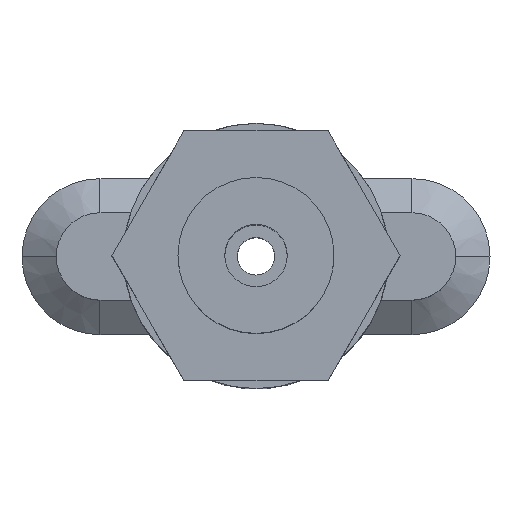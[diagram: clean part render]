
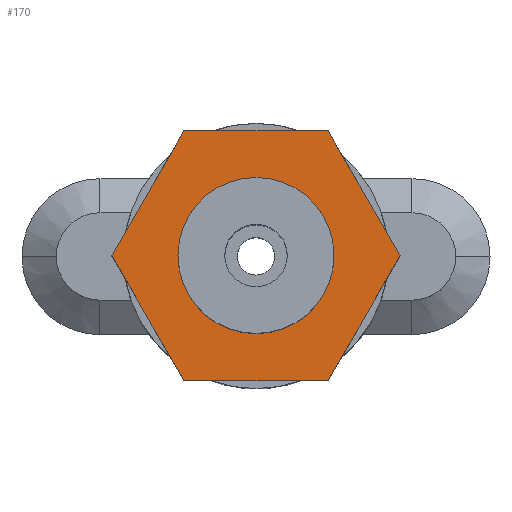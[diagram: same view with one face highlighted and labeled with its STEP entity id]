
A CAD part, top view. The second image highlights one B-rep face of the part: STEP entity #170.
In plain terms, the highlighted planar face has unit normal (0, 0, 1).
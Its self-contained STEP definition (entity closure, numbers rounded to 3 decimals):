
#170=ADVANCED_FACE('NONE',(#357,#358),#359,.T.);
#357=FACE_OUTER_BOUND('',#560,.T.);
#358=FACE_BOUND('',#561,.T.);
#359=PLANE('',#562);
#560=EDGE_LOOP('',(#980,#981,#982,#983,#984,#985));
#561=EDGE_LOOP('',(#986,#987));
#562=AXIS2_PLACEMENT_3D('',#988,#989,#990);
#980=ORIENTED_EDGE('',*,*,#1315,.T.);
#981=ORIENTED_EDGE('',*,*,#1316,.T.);
#982=ORIENTED_EDGE('',*,*,#1317,.T.);
#983=ORIENTED_EDGE('',*,*,#1318,.T.);
#984=ORIENTED_EDGE('',*,*,#1319,.T.);
#985=ORIENTED_EDGE('',*,*,#1320,.T.);
#986=ORIENTED_EDGE('',*,*,#1321,.T.);
#987=ORIENTED_EDGE('',*,*,#1322,.T.);
#988=CARTESIAN_POINT('',(2.5,0.0,0.0));
#989=DIRECTION('',(0.0,0.0,1.0));
#990=DIRECTION('',(1.0,-0.0,0.0));
#1315=EDGE_CURVE('NONE',#1585,#1586,#1587,.T.);
#1316=EDGE_CURVE('NONE',#1586,#1588,#1589,.T.);
#1317=EDGE_CURVE('NONE',#1588,#1590,#1591,.T.);
#1318=EDGE_CURVE('NONE',#1590,#1592,#1593,.T.);
#1319=EDGE_CURVE('NONE',#1592,#1594,#1595,.T.);
#1320=EDGE_CURVE('NONE',#1594,#1585,#1596,.T.);
#1321=EDGE_CURVE('NONE',#1597,#1598,#1599,.T.);
#1322=EDGE_CURVE('NONE',#1598,#1597,#1600,.T.);
#1585=VERTEX_POINT('NONE',#1957);
#1586=VERTEX_POINT('NONE',#1958);
#1587=LINE('',#1959,#1960);
#1588=VERTEX_POINT('NONE',#1961);
#1589=LINE('',#1962,#1963);
#1590=VERTEX_POINT('NONE',#1964);
#1591=LINE('',#1965,#1966);
#1592=VERTEX_POINT('NONE',#1967);
#1593=LINE('',#1968,#1969);
#1594=VERTEX_POINT('NONE',#1970);
#1595=LINE('',#1971,#1972);
#1596=LINE('',#1973,#1974);
#1597=VERTEX_POINT('NONE',#1975);
#1598=VERTEX_POINT('NONE',#1976);
#1599=CIRCLE('',#1977,2.5);
#1600=CIRCLE('',#1978,2.5);
#1957=CARTESIAN_POINT('',(2.309,4.0,0.0));
#1958=CARTESIAN_POINT('',(-2.309,4.0,0.0));
#1959=CARTESIAN_POINT('',(2.309,4.0,0.0));
#1960=VECTOR('',#2269,1000.0);
#1961=CARTESIAN_POINT('',(-4.619,0.,0.0));
#1962=CARTESIAN_POINT('',(-2.309,4.0,0.0));
#1963=VECTOR('',#2270,1000.0);
#1964=CARTESIAN_POINT('',(-2.309,-4.0,0.0));
#1965=CARTESIAN_POINT('',(-4.619,0.,0.0));
#1966=VECTOR('',#2271,1000.0);
#1967=CARTESIAN_POINT('',(2.309,-4.0,0.0));
#1968=CARTESIAN_POINT('',(-2.309,-4.0,0.0));
#1969=VECTOR('',#2272,1000.0);
#1970=CARTESIAN_POINT('',(4.619,0.,0.0));
#1971=CARTESIAN_POINT('',(2.309,-4.0,0.0));
#1972=VECTOR('',#2273,1000.0);
#1973=CARTESIAN_POINT('',(4.619,0.,0.0));
#1974=VECTOR('',#2274,1000.0);
#1975=CARTESIAN_POINT('',(0.0,2.5,0.0));
#1976=CARTESIAN_POINT('',(0.,-2.5,0.0));
#1977=AXIS2_PLACEMENT_3D('',#2275,#2276,#2277);
#1978=AXIS2_PLACEMENT_3D('',#2278,#2279,#2280);
#2269=DIRECTION('',(-1.0,0.0,0.0));
#2270=DIRECTION('',(-0.5,-0.866,0.0));
#2271=DIRECTION('',(0.5,-0.866,0.0));
#2272=DIRECTION('',(1.0,0.0,0.0));
#2273=DIRECTION('',(0.5,0.866,0.0));
#2274=DIRECTION('',(-0.5,0.866,0.0));
#2275=CARTESIAN_POINT('',(0.0,0.0,0.0));
#2276=DIRECTION('',(0.0,0.0,-1.0));
#2277=DIRECTION('',(0.0,1.0,0.0));
#2278=CARTESIAN_POINT('',(0.0,0.0,0.0));
#2279=DIRECTION('',(0.0,0.0,-1.0));
#2280=DIRECTION('',(0.0,1.0,0.0));
